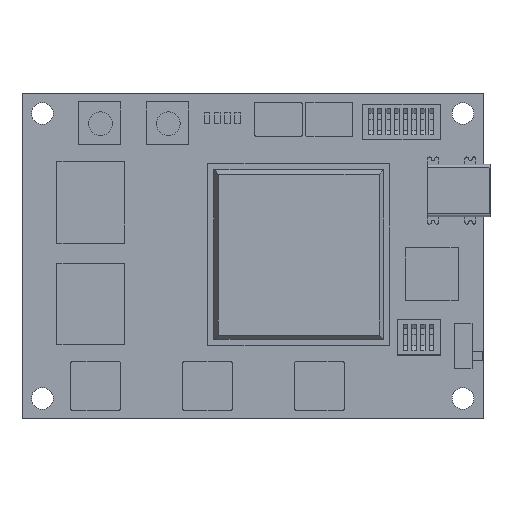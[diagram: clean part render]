
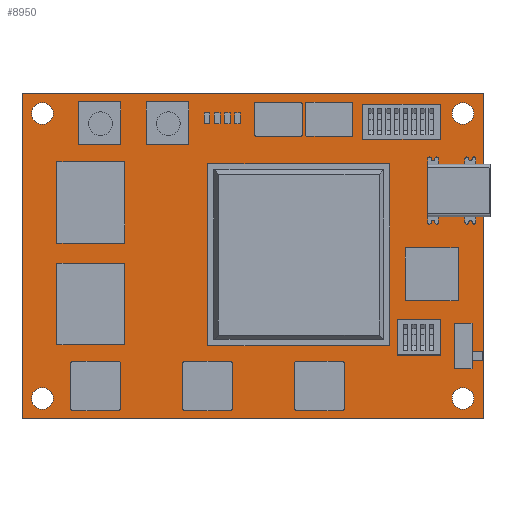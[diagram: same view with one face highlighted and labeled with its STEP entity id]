
A CAD part, top view. The second image highlights one B-rep face of the part: STEP entity #8950.
In plain terms, the highlighted planar face has unit normal (0, 0, 1).
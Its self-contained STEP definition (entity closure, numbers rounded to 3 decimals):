
#1739 = CARTESIAN_POINT ( 'NONE',  ( 1.4, 45., 1.5 ) ) ;
#1750 = DIRECTION ( 'NONE',  ( 1., 0., 0. ) ) ;
#1751 = DIRECTION ( 'NONE',  ( 0., 0., 1. ) ) ;
#1752 = CARTESIAN_POINT ( 'NONE',  ( 65., 45., 1.5 ) ) ;
#1753 = AXIS2_PLACEMENT_3D ( 'NONE', #1752, #1751, #1750 ) ;
#1754 = CIRCLE ( 'NONE', #1753, 1.6 ) ;
#1755 = DIRECTION ( 'NONE',  ( -1., 0., 0. ) ) ;
#1756 = VECTOR ( 'NONE', #1755, 1000. ) ;
#1763 = CARTESIAN_POINT ( 'NONE',  ( 66.6, 45., 1.5 ) ) ;
#1764 = CARTESIAN_POINT ( 'NONE',  ( 4.6, 45., 1.5 ) ) ;
#1773 = CARTESIAN_POINT ( 'NONE',  ( 0., 48., 1.5 ) ) ;
#1774 = LINE ( 'NONE', #1773, #1756 ) ;
#1775 = CARTESIAN_POINT ( 'NONE',  ( 0., 0., 1.5 ) ) ;
#1776 = CARTESIAN_POINT ( 'NONE',  ( 68., 0., 1.5 ) ) ;
#1780 = CARTESIAN_POINT ( 'NONE',  ( 0., 48., 1.5 ) ) ;
#1781 = DIRECTION ( 'NONE',  ( 1., 0., 0. ) ) ;
#1782 = DIRECTION ( 'NONE',  ( 0., 0., 1. ) ) ;
#1783 = CARTESIAN_POINT ( 'NONE',  ( 65., 3., 1.5 ) ) ;
#1784 = AXIS2_PLACEMENT_3D ( 'NONE', #1783, #1782, #1781 ) ;
#1785 = CARTESIAN_POINT ( 'NONE',  ( 0., 48., 1.5 ) ) ;
#1795 = DIRECTION ( 'NONE',  ( 1., 0., 0. ) ) ;
#1796 = DIRECTION ( 'NONE',  ( 0., 0., 1. ) ) ;
#1797 = CARTESIAN_POINT ( 'NONE',  ( 65., 45., 1.5 ) ) ;
#1798 = AXIS2_PLACEMENT_3D ( 'NONE', #1797, #1796, #1795 ) ;
#1799 = CIRCLE ( 'NONE', #1798, 1.6 ) ;
#1802 = CIRCLE ( 'NONE', #1784, 1.6 ) ;
#1803 = LINE ( 'NONE', #1898, #1897 ) ;
#1804 = DIRECTION ( 'NONE',  ( 1., 0., 0. ) ) ;
#1805 = DIRECTION ( 'NONE',  ( 0., 0., 1. ) ) ;
#1806 = CARTESIAN_POINT ( 'NONE',  ( 3., 45., 1.5 ) ) ;
#1807 = AXIS2_PLACEMENT_3D ( 'NONE', #1806, #1805, #1804 ) ;
#1808 = CIRCLE ( 'NONE', #1807, 1.6 ) ;
#1809 = CARTESIAN_POINT ( 'NONE',  ( 66.6, 3., 1.5 ) ) ;
#1810 = DIRECTION ( 'NONE',  ( 0., -1., 0. ) ) ;
#1811 = VECTOR ( 'NONE', #1810, 1000. ) ;
#1812 = CARTESIAN_POINT ( 'NONE',  ( 0., 0., 1.5 ) ) ;
#1813 = DIRECTION ( 'NONE',  ( -1., 0., 0. ) ) ;
#1816 = FACE_BOUND ( 'NONE', #8984, .T. ) ;
#1817 = DIRECTION ( 'NONE',  ( 0., 1., 0. ) ) ;
#1818 = CARTESIAN_POINT ( 'NONE',  ( 4.6, 3., 1.5 ) ) ;
#1819 = VECTOR ( 'NONE', #1817, 1000. ) ;
#1820 = CARTESIAN_POINT ( 'NONE',  ( 68., 0., 1.5 ) ) ;
#1821 = DIRECTION ( 'NONE',  ( 0., 0., -1. ) ) ;
#1831 = AXIS2_PLACEMENT_3D ( 'NONE', #1780, #1821, #1813 ) ;
#1856 = CARTESIAN_POINT ( 'NONE',  ( 63.4, 45., 1.5 ) ) ;
#1861 = CARTESIAN_POINT ( 'NONE',  ( 63.4, 3., 1.5 ) ) ;
#1867 = FACE_BOUND ( 'NONE', #8981, .T. ) ;
#1868 = FACE_BOUND ( 'NONE', #8935, .T. ) ;
#1882 = CARTESIAN_POINT ( 'NONE',  ( 1.4, 3., 1.5 ) ) ;
#1883 = PLANE ( 'NONE',  #1831 ) ;
#1889 = DIRECTION ( 'NONE',  ( 1., 0., 0. ) ) ;
#1890 = DIRECTION ( 'NONE',  ( 0., 0., 1. ) ) ;
#1891 = CARTESIAN_POINT ( 'NONE',  ( 3., 3., 1.5 ) ) ;
#1892 = AXIS2_PLACEMENT_3D ( 'NONE', #1891, #1890, #1889 ) ;
#1893 = CIRCLE ( 'NONE', #1892, 1.6 ) ;
#1894 = LINE ( 'NONE', #1812, #1811 ) ;
#1895 = CARTESIAN_POINT ( 'NONE',  ( 68., 48., 1.5 ) ) ;
#1896 = DIRECTION ( 'NONE',  ( 1., 0., 0. ) ) ;
#1897 = VECTOR ( 'NONE', #1896, 1000. ) ;
#1898 = CARTESIAN_POINT ( 'NONE',  ( 0., 0., 1.5 ) ) ;
#1899 = FACE_OUTER_BOUND ( 'NONE', #8985, .T. ) ;
#1900 = FACE_BOUND ( 'NONE', #8948, .T. ) ;
#1906 = LINE ( 'NONE', #1820, #1819 ) ;
#1911 = DIRECTION ( 'NONE',  ( 1., 0., 0. ) ) ;
#1912 = DIRECTION ( 'NONE',  ( 0., 0., 1. ) ) ;
#1913 = CARTESIAN_POINT ( 'NONE',  ( 65., 3., 1.5 ) ) ;
#1914 = AXIS2_PLACEMENT_3D ( 'NONE', #1913, #1912, #1911 ) ;
#1915 = CIRCLE ( 'NONE', #1914, 1.6 ) ;
#1921 = DIRECTION ( 'NONE',  ( 1., 0., 0. ) ) ;
#1922 = DIRECTION ( 'NONE',  ( 0., 0., 1. ) ) ;
#1923 = AXIS2_PLACEMENT_3D ( 'NONE', #1924, #1922, #1921 ) ;
#1924 = CARTESIAN_POINT ( 'NONE',  ( 3., 45., 1.5 ) ) ;
#1925 = CIRCLE ( 'NONE', #1923, 1.6 ) ;
#1926 = DIRECTION ( 'NONE',  ( 1., 0., 0. ) ) ;
#1927 = DIRECTION ( 'NONE',  ( 0., 0., 1. ) ) ;
#1928 = CARTESIAN_POINT ( 'NONE',  ( 3., 3., 1.5 ) ) ;
#1929 = AXIS2_PLACEMENT_3D ( 'NONE', #1928, #1927, #1926 ) ;
#1930 = CIRCLE ( 'NONE', #1929, 1.6 ) ;
#8719 = ORIENTED_EDGE ( 'NONE', *, *, #8954, .F. ) ;
#8935 = EDGE_LOOP ( 'NONE', ( #8942, #8979 ) ) ;
#8936 = ORIENTED_EDGE ( 'NONE', *, *, #9149, .F. ) ;
#8937 = VERTEX_POINT ( 'NONE', #1882 ) ;
#8938 = VERTEX_POINT ( 'NONE', #1818 ) ;
#8942 = ORIENTED_EDGE ( 'NONE', *, *, #9047, .F. ) ;
#8945 = VERTEX_POINT ( 'NONE', #1785 ) ;
#8946 = ORIENTED_EDGE ( 'NONE', *, *, #8947, .T. ) ;
#8947 = EDGE_CURVE ( 'NONE', #8974, #8987, #1906, .T. ) ;
#8948 = EDGE_LOOP ( 'NONE', ( #8990, #8949 ) ) ;
#8949 = ORIENTED_EDGE ( 'NONE', *, *, #8988, .F. ) ;
#8950 = ADVANCED_FACE ( 'NONE', ( #1816, #1900, #1899, #1868, #1867 ), #1883, .F. ) ;
#8954 = EDGE_CURVE ( 'NONE', #9007, #9011, #1802, .T. ) ;
#8972 = ORIENTED_EDGE ( 'NONE', *, *, #8978, .F. ) ;
#8973 = ORIENTED_EDGE ( 'NONE', *, *, #8986, .T. ) ;
#8974 = VERTEX_POINT ( 'NONE', #1776 ) ;
#8975 = VERTEX_POINT ( 'NONE', #1775 ) ;
#8976 = ORIENTED_EDGE ( 'NONE', *, *, #8977, .T. ) ;
#8977 = EDGE_CURVE ( 'NONE', #8987, #8945, #1774, .T. ) ;
#8978 = EDGE_CURVE ( 'NONE', #9092, #9013, #1754, .T. ) ;
#8979 = ORIENTED_EDGE ( 'NONE', *, *, #8980, .F. ) ;
#8980 = EDGE_CURVE ( 'NONE', #9091, #9146, #1808, .T. ) ;
#8981 = EDGE_LOOP ( 'NONE', ( #8982, #8719 ) ) ;
#8982 = ORIENTED_EDGE ( 'NONE', *, *, #9080, .F. ) ;
#8983 = ORIENTED_EDGE ( 'NONE', *, *, #8989, .T. ) ;
#8984 = EDGE_LOOP ( 'NONE', ( #8936, #8972 ) ) ;
#8985 = EDGE_LOOP ( 'NONE', ( #8983, #8973, #8946, #8976 ) ) ;
#8986 = EDGE_CURVE ( 'NONE', #8975, #8974, #1803, .T. ) ;
#8987 = VERTEX_POINT ( 'NONE', #1895 ) ;
#8988 = EDGE_CURVE ( 'NONE', #8938, #8937, #1893, .T. ) ;
#8989 = EDGE_CURVE ( 'NONE', #8945, #8975, #1894, .T. ) ;
#8990 = ORIENTED_EDGE ( 'NONE', *, *, #9046, .F. ) ;
#9007 = VERTEX_POINT ( 'NONE', #1809 ) ;
#9011 = VERTEX_POINT ( 'NONE', #1861 ) ;
#9013 = VERTEX_POINT ( 'NONE', #1856 ) ;
#9046 = EDGE_CURVE ( 'NONE', #8937, #8938, #1930, .T. ) ;
#9047 = EDGE_CURVE ( 'NONE', #9146, #9091, #1925, .T. ) ;
#9080 = EDGE_CURVE ( 'NONE', #9011, #9007, #1915, .T. ) ;
#9091 = VERTEX_POINT ( 'NONE', #1764 ) ;
#9092 = VERTEX_POINT ( 'NONE', #1763 ) ;
#9146 = VERTEX_POINT ( 'NONE', #1739 ) ;
#9149 = EDGE_CURVE ( 'NONE', #9013, #9092, #1799, .T. ) ;
